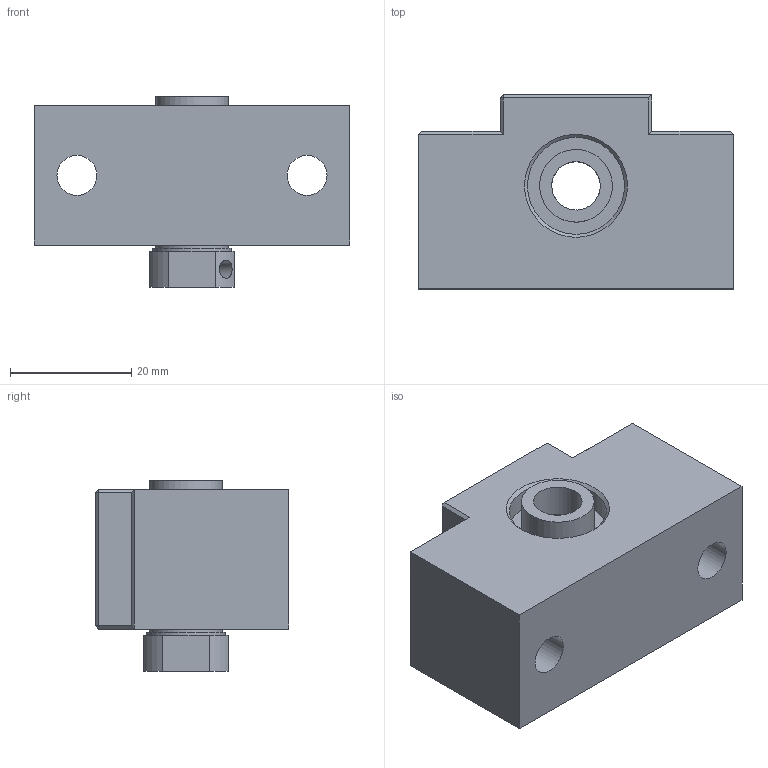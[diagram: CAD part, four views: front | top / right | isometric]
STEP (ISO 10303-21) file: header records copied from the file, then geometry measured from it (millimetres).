
FILE_DESCRIPTION(/* description */ (''),/* implementation_level */ '2;1');
FILE_NAME(/* name */ 'EK8.stp',/* time_stamp */ '2019-07-30T19:11:00+08:00',/* author */ (''),/* organization */ (''),/* preprocessor_version */ 'ST-DEVELOPER v14',/* originating_system */ 'SIEMENS PLM Software NX 8.0',/* authorisation */ '');
FILE_SCHEMA (('AUTOMOTIVE_DESIGN { 1 0 10303 214 3 1 1 1 }'));
Length unit declared in the file: millimetre
Products named in the file (6): EK8-LID; EK8-A; GT-12-8-5.5; M8; 708; EK8
Assembly tree (7 placements, depth 2):
  EK8
    708  x2
    M8
    GT-12-8-5.5  x2
    EK8-A
    EK8-LID
Bounding box: 52 x 32 x 31.5 mm (x, y, z)
Volume: 31313.2 mm3; surface area: 15220.5 mm2
Topology: 7 solids, 7 shells, 88 faces, 180 edges, 115 vertices
Faces by surface type: plane 51, cylinder 30, cone 5, bspline 2
Full cylindrical faces by diameter (mm): 3 x6, 6.6 x2, 8 x5, 11 x2, 12 x3, 13 x1, 16 x1, 21 x1, 22 x3
Entity records: 3272 total; most frequent: CARTESIAN_POINT 1487, DIRECTION 348, ORIENTED_EDGE 274, AXIS2_PLACEMENT_3D 138, EDGE_CURVE 137, EDGE_LOOP 132, VERTEX_POINT 101, FACE_BOUND 97
